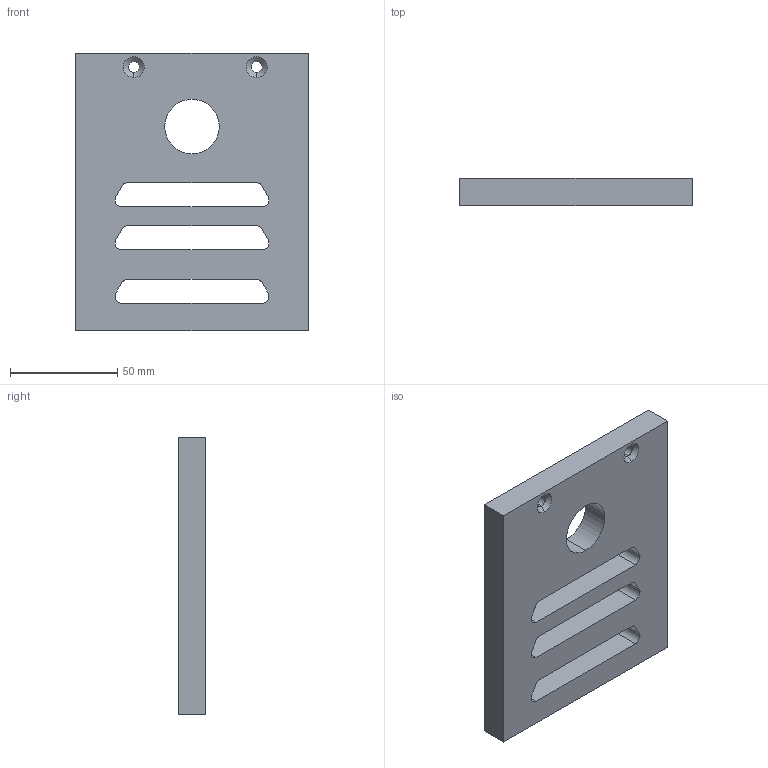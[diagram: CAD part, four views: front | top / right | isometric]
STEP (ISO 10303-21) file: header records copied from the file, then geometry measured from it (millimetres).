
FILE_DESCRIPTION (( 'STEP AP203' ), '1' );
FILE_NAME ('269-18-106.STEP', '2020-03-02T21:42:29', ( '' ), ( '' ), 'SwSTEP 2.0', 'SolidWorks 2017', '' );
FILE_SCHEMA (( 'CONFIG_CONTROL_DESIGN' ));
Length unit declared in the file: inch
Products named in the file (1): 269-18-106
Bounding box: 107.95 x 12.62 x 128.91 mm (x, y, z)
Volume: 139783.8 mm3; surface area: 35432.8 mm2
Topology: 1 solids, 1 shells, 40 faces, 110 edges, 72 vertices
Faces by surface type: cylinder 18, plane 18, cone 4
Entity records: 1385 total; most frequent: DIRECTION 232, CARTESIAN_POINT 223, ORIENTED_EDGE 220, EDGE_CURVE 110, AXIS2_PLACEMENT_3D 81, VERTEX_POINT 72, LINE 70, VECTOR 70
